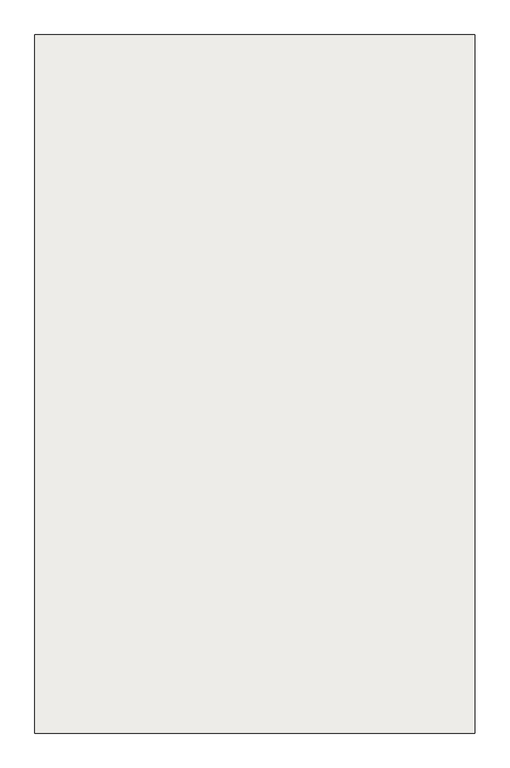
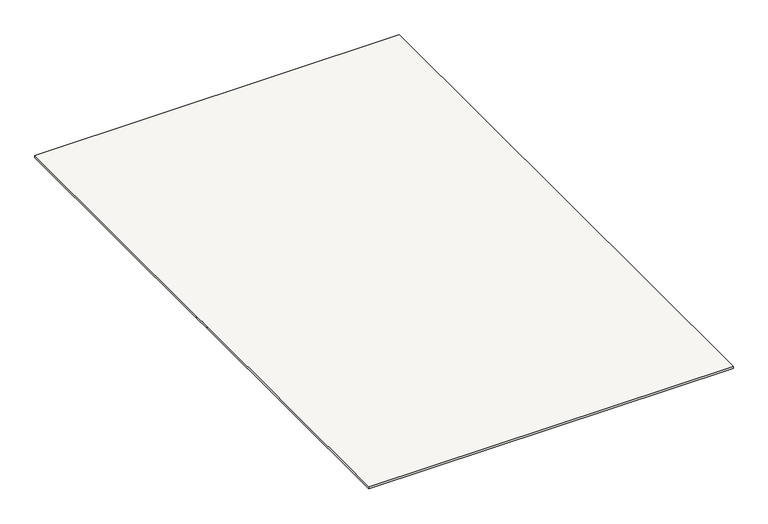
"""IFC4 building model written with IfcOpenShell, lengths in millimetres: slab geometry, Non-Monolitic_Landing."""

from ifc_helpers import new_model, si_unit, frame, origin, place, context, project, spatial, polyline, outline, extrude, source, transform, mapped, element, save


def slab_e47831ee(model_context):
    return source(origin(), model_context, "Body", "SweptSolid", [
        extrude(outline(polyline([(2198.5041438, -3354.3473686), (2198.5041438, -3274.8316761), (2198.5041438, -2084.8316761), (3748.5041438, -2084.8316761), (3748.5041438, -4544.3473686), (2198.5041438, -4544.3473686), (2198.5041438, -3354.3473686)])), frame((0.0, 0.0, 16875.0), z_axis=(0.0, 0.0, 1.0), x_axis=(1.0, 0.0, 0.0)), (0.0, 0.0, 1.0), 10.0),
    ])


if __name__ == "__main__":
    model = new_model("IFC4")
    model_context = context("Model", 3, world=origin())
    ifc_project = project(units=[si_unit("LENGTHUNIT", "METRE", prefix="MILLI")], contexts=[model_context])
    site = spatial("IfcSite", under=ifc_project)
    building = spatial("IfcBuilding", under=site)
    placement = place(None, origin())
    slab_shape = slab_e47831ee(model_context)
    element("IfcSlab", 1, ObjectType="Non-Monolitic_Landing", at=placement, inside=building, context=model_context, shape_type="MappedRepresentation", body=[
        mapped(slab_shape, transform((0.0, 0.0, 0.0), x_axis=(1.0, 0.0, 0.0), y_axis=(0.0, 1.0, 0.0), z_axis=(0.0, 0.0, 1.0))),
    ])
    save(model, "model.ifc")
